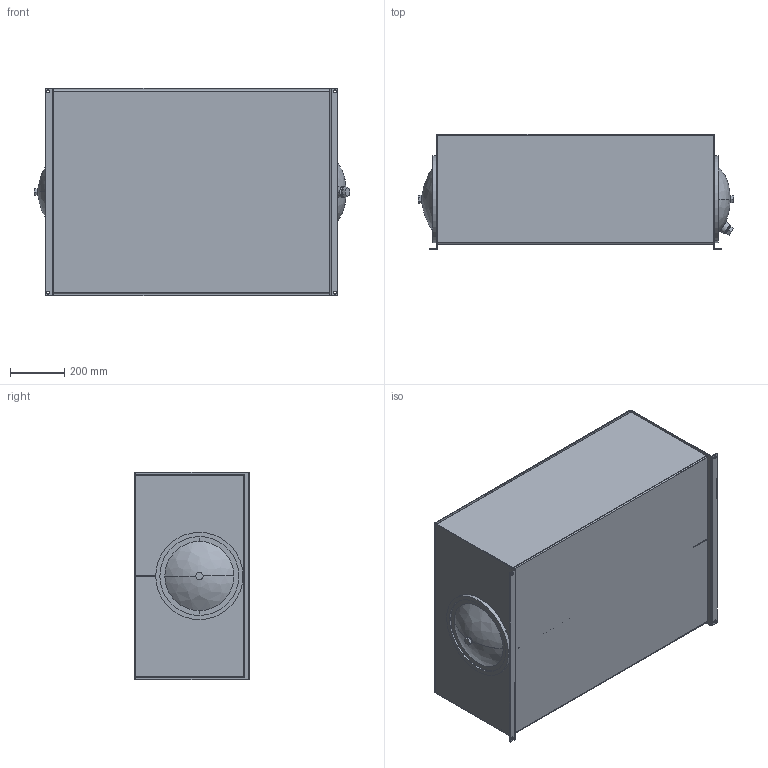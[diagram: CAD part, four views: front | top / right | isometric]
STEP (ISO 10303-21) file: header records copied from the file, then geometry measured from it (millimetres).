
FILE_DESCRIPTION (( 'STEP AP214' ), '1' );
FILE_NAME ('TH-60.STEP', '2026-04-22T14:00:02', ( '' ), ( '' ), 'SwSTEP 2.0', 'SolidWorks 2026', '' );
FILE_SCHEMA (( 'AUTOMOTIVE_DESIGN' ));
Length unit declared in the file: inch
Products named in the file (12): TL-EC-12; 12.00 END COVER WITH DRAIN; TH-60-BDY; 0.625 - 11 BAFFLE NUT; 12.00 GASKET; TH-60-BFL; 0.625 - 11 HEX BOLT; DRAIN; TH-60-TOP; TL-ECD-12; CRUSH WASHER; TH-60
Assembly tree (11 placements, depth 3):
  TH-60
    TH-60-TOP
    TH-60-BDY
    TH-60-BFL
    TL-ECD-12
      0.625 - 11 HEX BOLT
      0.625 - 11 BAFFLE NUT
      12.00 GASKET
      CRUSH WASHER
      12.00 END COVER WITH DRAIN
      DRAIN
    TL-EC-12
Bounding box: 1160 x 422.27 x 762 mm (x, y, z)
Volume: 11877616.8 mm3; surface area: 7131457.6 mm2
Topology: 10 solids, 16 shells, 222 faces, 523 edges, 332 vertices
Faces by surface type: plane 118, cylinder 88, bspline 8, cone 8
Entity records: 7076 total; most frequent: CARTESIAN_POINT 1399, DIRECTION 1173, ORIENTED_EDGE 1016, EDGE_CURVE 523, AXIS2_PLACEMENT_3D 432, VERTEX_POINT 332, LINE 309, VECTOR 309
